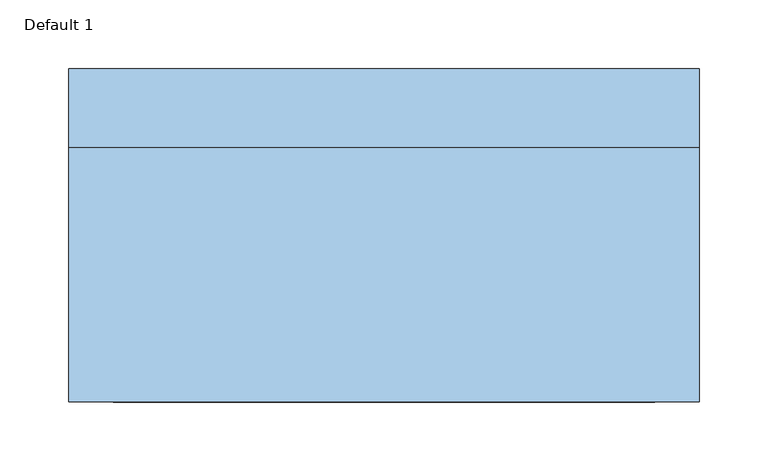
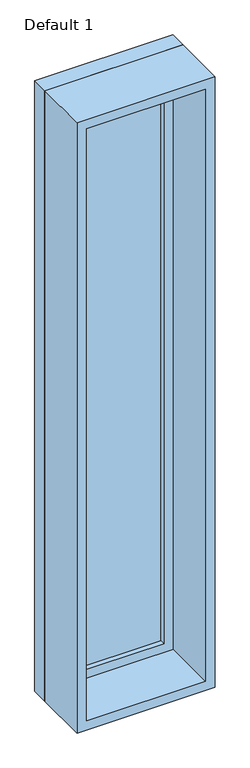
"""IFC4 building model written with IfcOpenShell, lengths in millimetres: window geometry, Planitar-Fixed : Default 1."""

from ifc_helpers import new_model, si_unit, frame, origin, place, context, project, spatial, polyline, outline, extrude, source, transform, mapped, element, save


def default_1_42b8000c(model_context):
    return source(origin(), model_context, "Body", "SweptSolid", [
        extrude(outline(polyline([(3029.0, -209.6), (933.4, -209.6), (933.4, 209.6), (3029.0, 209.6), (3029.0, -209.6)]), holes=[polyline([(2985.0, -165.6), (2985.0, 165.6), (977.4, 165.6), (977.4, -165.6), (2985.0, -165.6)])]), frame((0.0, 76.95, 0.0), z_axis=(0.0, 1.0, 0.0), x_axis=(0.0, 0.0, 1.0)), (0.0, 0.0, 1.0), 44.0),
        extrude(outline(polyline([(3048.0, -228.6), (914.4, -228.6), (914.4, 228.6), (3048.0, 228.6), (3048.0, -228.6)]), holes=[polyline([(3029.0, -209.6), (3029.0, 209.6), (933.4, 209.6), (933.4, -209.6), (3029.0, -209.6)])]), frame((0.0, 76.95, 0.0), z_axis=(0.0, 1.0, 0.0), x_axis=(0.0, 0.0, 1.0)), (0.0, 0.0, 1.0), 56.7),
        extrude(outline(polyline([(3048.0, -228.6), (914.4, -228.6), (914.4, 228.6), (3048.0, 228.6), (3048.0, -228.6)]), holes=[polyline([(3016.0, -196.6), (3016.0, 196.6), (946.4, 196.6), (946.4, -196.6), (3016.0, -196.6)])]), frame((0.0, -107.65, 0.0), z_axis=(0.0, 1.0, 0.0), x_axis=(0.0, 0.0, 1.0)), (0.0, 0.0, 1.0), 184.6),
        extrude(outline(polyline([(-165.6, 104.95), (165.6, 104.95), (165.6, 92.95), (-165.6, 92.95), (-165.6, 104.95)])), frame((0.0, 0.0, 977.4), z_axis=(0.0, 0.0, 1.0), x_axis=(1.0, 0.0, 0.0)), (0.0, 0.0, 1.0), 2007.6),
    ])


if __name__ == "__main__":
    model = new_model("IFC4")
    model_context = context("Model", 3, world=origin())
    ifc_project = project(units=[si_unit("LENGTHUNIT", "METRE", prefix="MILLI")], contexts=[model_context])
    site = spatial("IfcSite", under=ifc_project)
    building = spatial("IfcBuilding", under=site)
    placement = place(None, origin())
    default_1_shape = default_1_42b8000c(model_context)
    element("IfcWindow", 1, ObjectType="Planitar-Fixed : Default 1", at=placement, inside=building, context=model_context, shape_type="MappedRepresentation", body=[
        mapped(default_1_shape, transform((0.0, 0.0, 0.0), x_axis=(1.0, 0.0, 0.0), y_axis=(0.0, 1.0, 0.0), z_axis=(0.0, 0.0, 1.0))),
    ])
    save(model, "model.ifc")
